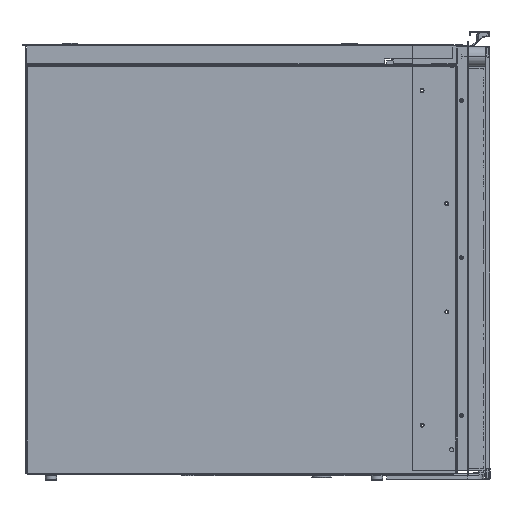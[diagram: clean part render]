
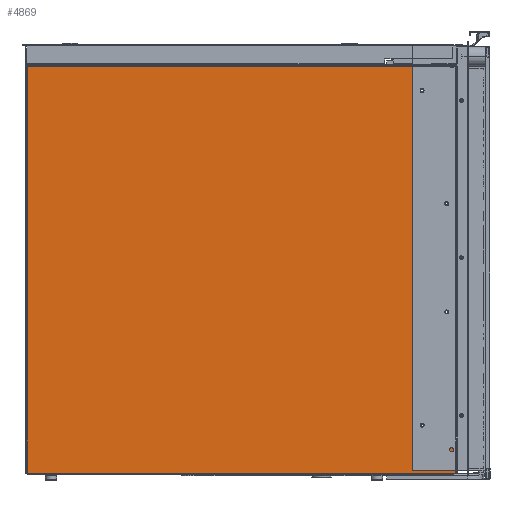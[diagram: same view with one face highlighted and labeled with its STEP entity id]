
A CAD part, left-side view. The second image highlights one B-rep face of the part: STEP entity #4869.
In plain terms, the highlighted planar face has unit normal (-1, 0, 0).
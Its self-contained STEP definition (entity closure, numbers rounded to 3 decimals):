
#281=TRIMMED_CURVE($,#1528,(#58502),(#58503),.T.,.CARTESIAN.);
#285=TRIMMED_CURVE($,#1532,(#58522),(#58523),.T.,.CARTESIAN.);
#289=TRIMMED_CURVE($,#1536,(#58542),(#58543),.T.,.CARTESIAN.);
#293=TRIMMED_CURVE($,#1540,(#58562),(#58563),.T.,.CARTESIAN.);
#335=TRIMMED_CURVE($,#1582,(#66436),(#66437),.T.,.CARTESIAN.);
#339=TRIMMED_CURVE($,#1586,(#66448),(#66449),.T.,.CARTESIAN.);
#343=TRIMMED_CURVE($,#1590,(#66460),(#66461),.T.,.CARTESIAN.);
#347=TRIMMED_CURVE($,#1594,(#66472),(#66473),.T.,.CARTESIAN.);
#1528=CIRCLE('',#37987,1.25);
#1532=CIRCLE('',#37991,1.25);
#1536=CIRCLE('',#37995,1.25);
#1540=CIRCLE('',#37999,1.25);
#1582=CIRCLE('',#38041,1.25);
#1586=CIRCLE('',#38045,1.25);
#1590=CIRCLE('',#38049,1.25);
#1594=CIRCLE('',#38053,1.25);
#4869=ADVANCED_FACE('',(#7401,#6365,#6366,#6367,#6368),#33851,.T.);
#6365=FACE_BOUND('',#9599,.T.);
#6366=FACE_BOUND('',#9600,.T.);
#6367=FACE_BOUND('',#9601,.T.);
#6368=FACE_BOUND('',#9602,.T.);
#7401=FACE_OUTER_BOUND('',#9598,.T.);
#9598=EDGE_LOOP('',(#14689,#14690,#14691,#14692,#14693));
#9599=EDGE_LOOP('',(#14694,#14695));
#9600=EDGE_LOOP('',(#14696,#14697));
#9601=EDGE_LOOP('',(#14698,#14699));
#9602=EDGE_LOOP('',(#14700,#14701));
#14689=ORIENTED_EDGE('',*,*,#23311,.F.);
#14690=ORIENTED_EDGE('',*,*,#23201,.T.);
#14691=ORIENTED_EDGE('',*,*,#23312,.F.);
#14692=ORIENTED_EDGE('',*,*,#23305,.F.);
#14693=ORIENTED_EDGE('',*,*,#23313,.F.);
#14694=ORIENTED_EDGE('',*,*,#23156,.T.);
#14695=ORIENTED_EDGE('',*,*,#24271,.F.);
#14696=ORIENTED_EDGE('',*,*,#24267,.F.);
#14697=ORIENTED_EDGE('',*,*,#23164,.T.);
#14698=ORIENTED_EDGE('',*,*,#24263,.F.);
#14699=ORIENTED_EDGE('',*,*,#23172,.T.);
#14700=ORIENTED_EDGE('',*,*,#24259,.F.);
#14701=ORIENTED_EDGE('',*,*,#23180,.T.);
#23156=EDGE_CURVE('',#31338,#31337,#281,.T.);
#23164=EDGE_CURVE('',#31346,#31345,#285,.T.);
#23172=EDGE_CURVE('',#31354,#31353,#289,.T.);
#23180=EDGE_CURVE('',#31362,#31361,#293,.T.);
#23201=EDGE_CURVE('',#31380,#31382,#27894,.T.);
#23305=EDGE_CURVE('',#31440,#31442,#27990,.T.);
#23311=EDGE_CURVE('',#31380,#31443,#27992,.T.);
#23312=EDGE_CURVE('',#31442,#31382,#27993,.T.);
#23313=EDGE_CURVE('',#31443,#31440,#27994,.T.);
#24259=EDGE_CURVE('',#31362,#31361,#335,.T.);
#24263=EDGE_CURVE('',#31354,#31353,#339,.T.);
#24267=EDGE_CURVE('',#31346,#31345,#343,.T.);
#24271=EDGE_CURVE('',#31338,#31337,#347,.T.);
#27894=B_SPLINE_CURVE_WITH_KNOTS('',1,(#58612,#58613),.UNSPECIFIED.,.F.,
 .F.,(2,2),(-2.,0.),.UNSPECIFIED.);
#27990=B_SPLINE_CURVE_WITH_KNOTS('',1,(#58986,#58987),.UNSPECIFIED.,.F.,
 .F.,(2,2),(0.,435.4),.UNSPECIFIED.);
#27992=B_SPLINE_CURVE_WITH_KNOTS('',1,(#59002,#59003),.UNSPECIFIED.,.F.,
 .F.,(2,2),(-433.4,0.),.UNSPECIFIED.);
#27993=B_SPLINE_CURVE_WITH_KNOTS('',1,(#59004,#59005),.UNSPECIFIED.,.F.,
 .F.,(2,2),(-413.4,0.),.UNSPECIFIED.);
#27994=B_SPLINE_CURVE_WITH_KNOTS('',1,(#59006,#59007),.UNSPECIFIED.,.F.,
 .F.,(2,2),(-413.4,0.),.UNSPECIFIED.);
#31337=VERTEX_POINT('',#57394);
#31338=VERTEX_POINT('',#57395);
#31345=VERTEX_POINT('',#57402);
#31346=VERTEX_POINT('',#57403);
#31353=VERTEX_POINT('',#57410);
#31354=VERTEX_POINT('',#57411);
#31361=VERTEX_POINT('',#57418);
#31362=VERTEX_POINT('',#57419);
#31380=VERTEX_POINT('',#57437);
#31382=VERTEX_POINT('',#57439);
#31440=VERTEX_POINT('',#57497);
#31442=VERTEX_POINT('',#57499);
#31443=VERTEX_POINT('',#57500);
#33851=PLANE('',#37665);
#37665=AXIS2_PLACEMENT_3D('',#50499,#40918,$);
#37987=AXIS2_PLACEMENT_3D($,#58501,#41313,#41314);
#37991=AXIS2_PLACEMENT_3D($,#58521,#41321,#41322);
#37995=AXIS2_PLACEMENT_3D($,#58541,#41329,#41330);
#37999=AXIS2_PLACEMENT_3D($,#58561,#41337,#41338);
#38041=AXIS2_PLACEMENT_3D($,#66435,#41421,#41422);
#38045=AXIS2_PLACEMENT_3D($,#66447,#41429,#41430);
#38049=AXIS2_PLACEMENT_3D($,#66459,#41437,#41438);
#38053=AXIS2_PLACEMENT_3D($,#66471,#41445,#41446);
#40918=DIRECTION('',(-1.,0.,0.));
#41313=DIRECTION('',(1.,0.,0.));
#41314=DIRECTION('',(0.,0.,1.));
#41321=DIRECTION('',(1.,0.,0.));
#41322=DIRECTION('',(0.,0.,1.));
#41329=DIRECTION('',(1.,0.,0.));
#41330=DIRECTION('',(0.,0.,1.));
#41337=DIRECTION('',(1.,0.,0.));
#41338=DIRECTION('',(0.,0.,1.));
#41421=DIRECTION('',(-1.,0.,0.));
#41422=DIRECTION('',(0.,0.,1.));
#41429=DIRECTION('',(-1.,0.,0.));
#41430=DIRECTION('',(0.,0.,1.));
#41437=DIRECTION('',(-1.,0.,0.));
#41438=DIRECTION('',(0.,0.,1.));
#41445=DIRECTION('',(-1.,0.,0.));
#41446=DIRECTION('',(0.,0.,1.));
#50499=CARTESIAN_POINT('',(-277.25,-246.69,-480.24));
#57394=CARTESIAN_POINT('',(-277.25,68.35,-11.75));
#57395=CARTESIAN_POINT('',(-277.25,68.35,-9.25));
#57402=CARTESIAN_POINT('',(-277.25,-41.65,-11.75));
#57403=CARTESIAN_POINT('',(-277.25,-41.65,-9.25));
#57410=CARTESIAN_POINT('',(-277.25,183.35,-36.75));
#57411=CARTESIAN_POINT('',(-277.25,183.35,-34.25));
#57418=CARTESIAN_POINT('',(-277.25,-156.65,-36.75));
#57419=CARTESIAN_POINT('',(-277.25,-156.65,-34.25));
#57437=CARTESIAN_POINT('',(-277.25,-205.35,-3.3));
#57439=CARTESIAN_POINT('',(-277.25,-205.35,-1.3));
#57497=CARTESIAN_POINT('',(-277.25,208.05,-436.7));
#57499=CARTESIAN_POINT('',(-277.25,208.05,-1.3));
#57500=CARTESIAN_POINT('',(-277.25,-205.35,-436.7));
#58501=CARTESIAN_POINT('',(-277.25,68.35,-10.5));
#58502=CARTESIAN_POINT('',(-277.25,68.35,-9.25));
#58503=CARTESIAN_POINT('',(-277.25,68.35,-11.75));
#58521=CARTESIAN_POINT('',(-277.25,-41.65,-10.5));
#58522=CARTESIAN_POINT('',(-277.25,-41.65,-9.25));
#58523=CARTESIAN_POINT('',(-277.25,-41.65,-11.75));
#58541=CARTESIAN_POINT('',(-277.25,183.35,-35.5));
#58542=CARTESIAN_POINT('',(-277.25,183.35,-34.25));
#58543=CARTESIAN_POINT('',(-277.25,183.35,-36.75));
#58561=CARTESIAN_POINT('',(-277.25,-156.65,-35.5));
#58562=CARTESIAN_POINT('',(-277.25,-156.65,-34.25));
#58563=CARTESIAN_POINT('',(-277.25,-156.65,-36.75));
#58612=CARTESIAN_POINT('',(-277.25,-205.35,-3.3));
#58613=CARTESIAN_POINT('',(-277.25,-205.35,-1.3));
#58986=CARTESIAN_POINT('',(-277.25,208.05,-436.7));
#58987=CARTESIAN_POINT('',(-277.25,208.05,-1.3));
#59002=CARTESIAN_POINT('',(-277.25,-205.35,-3.3));
#59003=CARTESIAN_POINT('',(-277.25,-205.35,-436.7));
#59004=CARTESIAN_POINT('',(-277.25,208.05,-1.3));
#59005=CARTESIAN_POINT('',(-277.25,-205.35,-1.3));
#59006=CARTESIAN_POINT('',(-277.25,-205.35,-436.7));
#59007=CARTESIAN_POINT('',(-277.25,208.05,-436.7));
#66435=CARTESIAN_POINT('',(-277.25,-156.65,-35.5));
#66436=CARTESIAN_POINT('',(-277.25,-156.65,-34.25));
#66437=CARTESIAN_POINT('',(-277.25,-156.65,-36.75));
#66447=CARTESIAN_POINT('',(-277.25,183.35,-35.5));
#66448=CARTESIAN_POINT('',(-277.25,183.35,-34.25));
#66449=CARTESIAN_POINT('',(-277.25,183.35,-36.75));
#66459=CARTESIAN_POINT('',(-277.25,-41.65,-10.5));
#66460=CARTESIAN_POINT('',(-277.25,-41.65,-9.25));
#66461=CARTESIAN_POINT('',(-277.25,-41.65,-11.75));
#66471=CARTESIAN_POINT('',(-277.25,68.35,-10.5));
#66472=CARTESIAN_POINT('',(-277.25,68.35,-9.25));
#66473=CARTESIAN_POINT('',(-277.25,68.35,-11.75));
